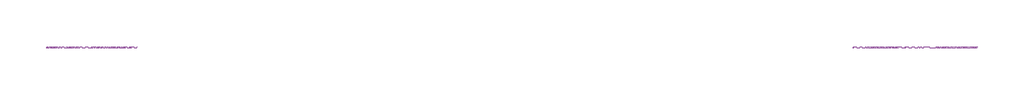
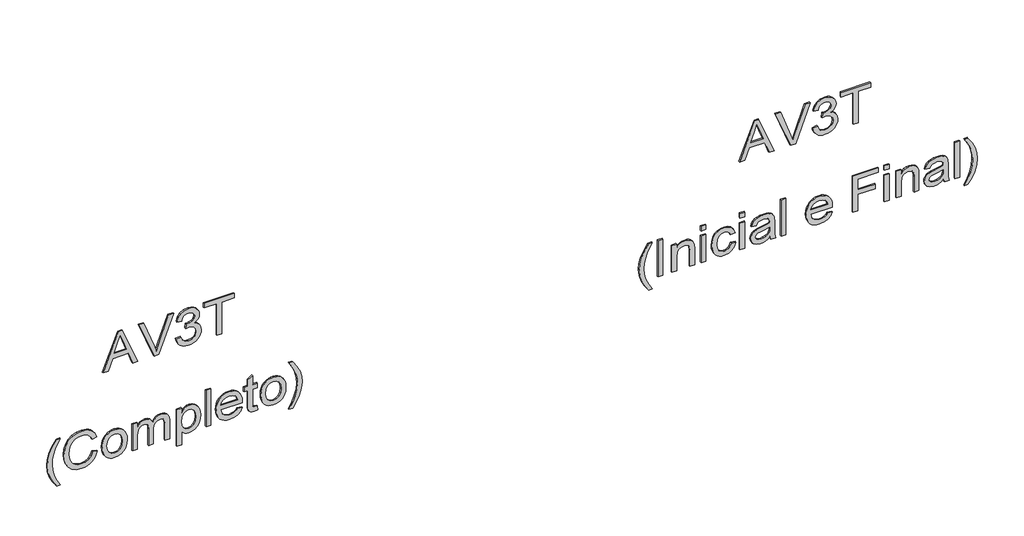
# One storey, part 9 of 14: 2 proxies.
"""IFC4 building model written with IfcOpenShell, lengths in millimetres."""

from ifc_helpers import new_model, si_unit, frame, origin, place, context, project, spatial, polyline, outline, extrude, element, save

model = new_model("IFC4")

# Units and contexts
model_context = context("Model", 3, world=origin())
ifc_project = project(units=[si_unit("LENGTHUNIT", "METRE", prefix="MILLI")], contexts=[model_context])

# Site, building, storey
site = spatial("IfcSite", under=ifc_project)
building = spatial("IfcBuilding", under=site)
storey = spatial("IfcBuildingStorey", under=building, Name="04 - Marelli - Planta Baixa - Painéis de Vidro", Elevation=36000.0)

# Proxies
placement = place(None, origin())
element("IfcBuildingElementProxy", 1, Name="300mm Arial", ObjectType="300mm Arial", at=placement, inside=storey, context=model_context, shape_type="SweptSolid", body=[
    extrude(outline(polyline([(42065.9244535, 73310.1721595), (42065.9244535, 73349.9769914), (42160.1022443, 73384.4107462), (42160.1022443, 73508.5341313), (42065.9244535, 73543.0414625), (42065.9244535, 73582.8462944), (42367.293384, 73462.5488819), (42367.293384, 73430.469572), (42065.9244535, 73310.1721595)]), holes=[polyline([(42197.7733606, 73398.2431092), (42278.3395176, 73427.7472452), (42329.6222677, 73446.5092269), (42271.8647944, 73467.6256535), (42197.7733606, 73494.7753447), (42197.7733606, 73398.2431092)])]), frame((0.0, 8778.3159498, 0.0), z_axis=(0.0, 1.0, 0.0), x_axis=(0.0, 0.0, 1.0)), (0.0, 0.0, 1.0), 10.0),
    extrude(outline(polyline([(42065.9244535, 73712.1200275), (42065.9244535, 73751.0419425), (42367.293384, 73865.8947014), (42367.293384, 73825.5748348), (42150.1694304, 73745.0822542), (42101.2411251, 73729.0425992), (42150.1694304, 73712.782215), (42367.293384, 73632.5103637), (42367.293384, 73592.190497), (42065.9244535, 73712.1200275)])), frame((0.0, 8778.3159498, 0.0), z_axis=(0.0, 1.0, 0.0), x_axis=(0.0, 0.0, 1.0)), (0.0, 0.0, 1.0), 10.0),
    extrude(outline(polyline([(42145.9755757, 73886.7903988), (42128.0827151, 73890.0415559), (42111.928097, 73896.1162073), (42097.5117213, 73905.0143531), (42084.8335881, 73916.7359932), (42074.5007025, 73930.715509), (42067.12007, 73946.387282), (42062.6916905, 73963.7513122), (42061.215564, 73982.8075995), (42062.9446094, 74003.8918364), (42068.1317455, 74023.0722839), (42076.7769724, 74040.3489421), (42088.88029, 74055.721811), (42103.4668111, 74068.3401634), (42119.5616484, 74077.3532723), (42137.1648019, 74082.7611376), (42156.2762716, 74084.5637594), (42183.2420218, 74080.9585158), (42205.2781533, 74070.1427852), (42221.5017493, 74052.6683904), (42231.029893, 74029.0871545), (42241.9008059, 74047.0397959), (42255.9722922, 74059.9892421), (42272.4901938, 74067.8251286), (42290.7003526, 74070.4370908), (42310.2440836, 74067.6871728), (42328.7025627, 74059.4374191), (42344.7238236, 74045.9913322), (42356.9558999, 74027.6524147), (42364.709013, 74005.9013918), (42367.293384, 73982.2189883), (42362.0510656, 73949.3303379), (42346.3241103, 73922.3277995), (42321.0690113, 73902.5909305), (42287.2422618, 73891.4992883), (42282.5333723, 73929.1704046), (42303.134764, 73935.8474628), (42317.8500438, 73947.6380808), (42326.6792117, 73963.7881004), (42329.6222677, 73983.5433635), (42326.7068029, 74003.2618384), (42317.9604084, 74019.0071878), (42304.7626419, 74029.3262778), (42288.4930606, 74032.7659745), (42268.9585267, 74028.0202967), (42255.2365283, 74013.7832635), (42247.1247303, 73993.6049361), (42244.4207976, 73971.0353757), (42244.862256, 73965.0021109), (42207.1911397, 73960.8082562), (42211.311418, 73987.2221835), (42207.4578541, 74010.9137839), (42195.8971624, 74030.0436477), (42178.4503588, 74042.6803942), (42156.9384591, 74046.8926431), (42134.2769282, 74042.643606), (42115.5885229, 74029.8964949), (42103.0621409, 74009.9572908), (42098.8866803, 73984.1319747), (42101.9217068, 73962.1234343), (42111.0267861, 73945.2468478), (42127.0112588, 73932.8952098), (42150.6844652, 73924.4615151), (42145.9755757, 73886.7903988)])), frame((0.0, 8778.3159498, 0.0), z_axis=(0.0, 1.0, 0.0), x_axis=(0.0, 0.0, 1.0)), (0.0, 0.0, 1.0), 10.0),
    extrude(outline(polyline([(42065.9244535, 74206.9948874), (42065.9244535, 74244.6660037), (42329.6222677, 74244.6660037), (42329.6222677, 74343.552684), (42367.293384, 74343.552684), (42367.293384, 74108.1082071), (42329.6222677, 74108.1082071), (42329.6222677, 74206.9948874), (42065.9244535, 74206.9948874)])), frame((0.0, 8778.3159498, 0.0), z_axis=(0.0, 1.0, 0.0), x_axis=(0.0, 0.0, 1.0)), (0.0, 0.0, 1.0), 10.0),
    extrude(outline(polyline([(41249.3155348, 72945.0124911), (41249.3155348, 72973.2658283), (41297.5540614, 72944.4238799), (41345.8109821, 72923.8224882), (41394.0862969, 72911.4616532), (41442.3800058, 72907.3413748), (41480.2534572, 72909.7142137), (41517.9429677, 72916.8327303), (41575.7740173, 72938.0227332), (41635.4444769, 72973.2658283), (41635.4444769, 72945.0124911), (41584.934279, 72910.321219), (41534.2033518, 72886.0042191), (41489.4137189, 72873.7537486), (41442.600735, 72869.6702585), (41389.2210575, 72875.1333061), (41337.68079, 72891.522449), (41290.2791949, 72915.8210548), (41249.3155348, 72945.0124911)])), frame((0.0, 8778.3159498, 0.0), z_axis=(0.0, 1.0, 0.0), x_axis=(0.0, 0.0, 1.0)), (0.0, 0.0, 1.0), 10.0),
    extrude(outline(polyline([(41441.2027835, 73227.5458634), (41408.9395325, 73215.3597723), (41385.7261786, 73195.576918), (41371.7098746, 73169.3745229), (41367.0377732, 73137.9298094), (41370.4682728, 73110.9548621), (41380.7597717, 73085.9480835), (41397.9858461, 73065.0891743), (41422.2200725, 73050.5578355), (41452.3128197, 73042.0321703), (41487.1144565, 73039.1902819), (41515.5333406, 73041.5907119), (41543.1060961, 73048.792002), (41567.4966724, 73061.9161921), (41586.3690188, 73082.0853225), (41598.4539423, 73108.6647967), (41602.4822501, 73141.0200181), (41598.8494154, 73169.0894144), (41587.9509113, 73191.9348863), (41569.1061561, 73209.777163), (41541.6345681, 73222.8369739), (41550.6108888, 73260.5080902), (41588.4291579, 73243.8706269), (41603.751443, 73232.0685127), (41616.6824952, 73217.9441433), (41626.9510013, 73201.7642333), (41634.2856486, 73183.7954971), (41640.1533665, 73142.4915461), (41635.6192209, 73104.6364888), (41622.0167841, 73070.0923695), (41599.6771499, 73040.9653125), (41568.9314122, 73019.3614423), (41530.9843844, 73005.9797348), (41487.0408801, 73001.5191656), (41445.3782441, 73005.4647), (41406.4747231, 73017.3013032), (41373.3837376, 73036.6886843), (41349.1587083, 73063.2865526), (41334.3146698, 73097.9870218), (41329.3666569, 73141.6822057), (41331.0014325, 73164.1046133), (41335.9057594, 73184.7243992), (41344.0796375, 73203.5415632), (41355.5230668, 73220.5561055), (41370.0796975, 73235.4323337), (41387.5931797, 73247.8345554), (41408.0635135, 73257.7627708), (41431.4906988, 73265.2169797), (41441.2027835, 73227.5458634)])), frame((0.0, 8778.3159498, 0.0), z_axis=(0.0, 1.0, 0.0), x_axis=(0.0, 0.0, 1.0)), (0.0, 0.0, 1.0), 10.0),
    extrude(outline(polyline([(41444.7344506, 73302.888096), (41418.4124939, 73304.596448), (41395.3646869, 73309.7215041), (41375.5910296, 73318.2632642), (41359.0915221, 73330.2217283), (41346.0868936, 73344.9485044), (41336.7978732, 73361.7952005), (41331.224461, 73380.7618166), (41329.3666569, 73401.8483527), (41332.7419742, 73428.4370239), (41342.8679261, 73452.8735855), (41359.1007192, 73473.447386), (41380.7965599, 73488.4477744), (41409.767267, 73497.6080361), (41447.8246594, 73500.6614566), (41472.7049786, 73498.9347105), (41494.7388108, 73493.7544722), (41513.9261561, 73485.1207416), (41530.2670145, 73473.0335188), (41543.3199275, 73458.2239692), (41552.6434368, 73441.4232584), (41558.2375424, 73422.6313862), (41560.1022443, 73401.8483527), (41558.5709355, 73383.0219916), (41553.9770091, 73365.6855526), (41546.3204651, 73349.8390357), (41535.6013034, 73335.4824408), (41518.830483, 73321.222415), (41498.095734, 73311.0366822), (41473.3970566, 73304.9252426), (41444.7344506, 73302.888096)]), holes=[polyline([(41444.808027, 73340.5592123), (41478.8830968, 73344.918614), (41503.1173232, 73357.9968189), (41517.6026768, 73377.6785056), (41522.431128, 73401.8483527), (41517.5842827, 73425.7698795), (41503.0437468, 73445.4423692), (41479.0854319, 73458.6033475), (41445.9852494, 73462.9903403), (41411.1468245, 73458.6309387), (41386.535519, 73445.5527338), (41371.9122097, 73425.9078352), (41367.0377732, 73401.8483527), (41371.8846185, 73377.6785056), (41386.4251544, 73357.9968189), (41410.7145631, 73344.918614), (41444.808027, 73340.5592123)])]), frame((0.0, 8778.3159498, 0.0), z_axis=(0.0, 1.0, 0.0), x_axis=(0.0, 0.0, 1.0)), (0.0, 0.0, 1.0), 10.0),
    extrude(outline(polyline([(41334.0755465, 73543.0414625), (41334.0755465, 73580.7125788), (41445.6909438, 73580.7125788), (41471.6082304, 73582.1473186), (41490.6461236, 73586.4515379), (41504.368122, 73593.9563306), (41514.3377241, 73604.9927905), (41520.407777, 73618.365301), (41522.431128, 73632.8782457), (41519.3961015, 73649.9571673), (41510.2910222, 73661.4626767), (41495.0974958, 73668.0017792), (41473.7971282, 73670.18148), (41334.0755465, 73670.18148), (41334.0755465, 73707.8525963), (41459.008272, 73707.8525963), (41487.7214617, 73711.5406133), (41507.3479662, 73722.6046643), (41518.6603375, 73739.2421276), (41522.431128, 73759.6503812), (41520.9596, 73771.2110729), (41516.5450161, 73781.171478), (41509.7300021, 73788.915394), (41501.0571841, 73793.8266186), (41469.6032735, 73797.3214975), (41334.0755465, 73797.3214975), (41334.0755465, 73834.9926138), (41485.7900813, 73834.9926138), (41518.7615051, 73830.6791975), (41541.8920855, 73817.7389483), (41555.5497046, 73796.7972657), (41560.1022443, 73768.4795491), (41557.366122, 73748.9542122), (41549.1577549, 73731.3602558), (41535.4771432, 73715.6976799), (41516.3242869, 73701.9664844), (41534.7643719, 73693.7627159), (41548.5875379, 73681.2179399), (41557.2235677, 73664.4241268), (41560.1022443, 73643.4732472), (41557.27875, 73623.9203191), (41548.808267, 73606.6114712), (41535.702471, 73592.0433442), (41518.9730372, 73580.7125788), (41555.3933548, 73580.7125788), (41555.3933548, 73543.0414625), (41334.0755465, 73543.0414625)])), frame((0.0, 8778.3159498, 0.0), z_axis=(0.0, 1.0, 0.0), x_axis=(0.0, 0.0, 1.0)), (0.0, 0.0, 1.0), 10.0),
    extrude(outline(polyline([(41249.3155348, 73891.4992883), (41249.3155348, 73929.1704046), (41363.5061061, 73929.1704046), (41349.9956398, 73939.8113913), (41339.0419534, 73953.0459461), (41331.785481, 73968.5061869), (41329.3666569, 73985.8242319), (41332.9810975, 74010.2423993), (41343.8244193, 74033.4649502), (41361.4459669, 74053.4041544), (41385.3950848, 74067.9722814), (41414.2094421, 74076.8842227), (41446.4267078, 74079.8548698), (41476.7217901, 74077.2245136), (41504.4784866, 74069.3334448), (41527.9861461, 74056.2736339), (41545.5341173, 74038.1370516), (41556.4602125, 74015.8617968), (41560.1022443, 73990.3859686), (41557.4994792, 73971.2561049), (41549.6911838, 73955.2164499), (41536.6773583, 73941.4576633), (41518.4580024, 73929.1704046), (41555.3933548, 73929.1704046), (41555.3933548, 73891.4992883), (41249.3155348, 73891.4992883)]), holes=[polyline([(41442.968617, 73929.1704046), (41477.1356573, 73933.5206092), (41502.0872537, 73946.571223), (41517.3451594, 73965.2688254), (41522.431128, 73986.5599959), (41517.6486621, 74007.7683929), (41503.3012642, 74025.7762165), (41479.3521464, 74038.0818693), (41445.7645202, 74042.1837535), (41410.7237602, 74037.9807017), (41386.2412134, 74025.3715464), (41371.8386333, 74006.876279), (41367.0377732, 73985.0148915), (41371.6730864, 73963.5029918), (41385.5790258, 73945.467577), (41409.1970499, 73933.2446977), (41442.968617, 73929.1704046)])]), frame((0.0, 8778.3159498, 0.0), z_axis=(0.0, 1.0, 0.0), x_axis=(0.0, 0.0, 1.0)), (0.0, 0.0, 1.0), 10.0),
    extrude(outline(polyline([(74159.905992, 8778.3159498), (74122.2348757, 8778.3159498), (74122.2348757, 8788.3159498), (74159.905992, 8788.3159498), (74159.905992, 8778.3159498)])), frame((0.0, 0.0, 41334.0755465), z_axis=(0.0, 0.0, 1.0), x_axis=(1.0, 0.0, 0.0)), (0.0, 0.0, 1.0), 301.3689304),
    extrude(outline(polyline([(41400.0, 74371.3645628), (41385.1191733, 74360.8063496), (41374.9104479, 74347.0843511), (41369.0059419, 74330.1985676), (41367.0377732, 74310.1489988), (41371.2868103, 74283.4867512), (41384.0339214, 74261.6253637), (41404.7640718, 74246.4778225), (41432.9622268, 74239.9571141), (41432.9622268, 74409.2564083), (41443.1157698, 74409.4771375), (41469.3687487, 74407.6906106), (41492.5039277, 74402.3310298), (41512.5213067, 74393.3983951), (41529.4208859, 74380.8927065), (41542.8439802, 74365.5727207), (41552.4319047, 74348.1971942), (41558.1846594, 74328.766127), (41560.1022443, 74307.2795193), (41558.1800609, 74285.0778408), (41552.4135106, 74265.0466662), (41542.8025935, 74247.1859953), (41529.3473095, 74231.4958282), (41512.4109422, 74218.7165274), (41492.3567749, 74209.5884554), (41469.1848077, 74204.1116122), (41442.8950406, 74202.2859978), (41417.467497, 74204.0932181), (41395.0427901, 74209.514879), (41375.62092, 74218.5509805), (41359.2018867, 74231.2015227), (41346.1489737, 74246.9330765), (41336.8254644, 74265.2122131), (41331.2313588, 74286.0389326), (41329.3666569, 74309.4132348), (41333.6892704, 74345.0701972), (41346.6571107, 74373.7557958), (41367.4608375, 74394.991784), (41395.2911105, 74408.2999151), (41400.0, 74371.3645628)]), holes=[polyline([(41470.6333431, 74239.9571141), (41491.8693312, 74246.1467287), (41508.3412476, 74260.7424469), (41518.9086579, 74281.7393117), (41522.431128, 74307.1323665), (41518.0165441, 74334.7603043), (41504.7727922, 74356.7228594), (41490.535759, 74366.7108556), (41470.6333431, 74371.8060212), (41470.6333431, 74239.9571141)])]), frame((0.0, 8778.3159498, 0.0), z_axis=(0.0, 1.0, 0.0), x_axis=(0.0, 0.0, 1.0)), (0.0, 0.0, 1.0), 10.0),
    extrude(outline(polyline([(41365.4926689, 74527.199376), (41367.0377732, 74510.791839), (41369.576159, 74497.9527574), (41376.4555523, 74491.5148224), (41395.8797217, 74489.5282597), (41517.7222385, 74489.5282597), (41517.7222385, 74527.199376), (41555.3933548, 74527.199376), (41555.3933548, 74489.5282597), (41631.3241986, 74489.5282597), (41609.1777025, 74451.8571434), (41555.3933548, 74451.8571434), (41555.3933548, 74423.6038061), (41517.7222385, 74423.6038061), (41517.7222385, 74451.8571434), (41394.7760757, 74451.8571434), (41367.7919313, 74452.9975775), (41352.0281878, 74456.4188801), (41342.849532, 74462.6360858), (41335.6206508, 74472.1642295), (41330.9301554, 74485.6471046), (41329.3666569, 74503.7285047), (41332.9719005, 74531.9082655), (41365.4926689, 74527.199376)])), frame((0.0, 8778.3159498, 0.0), z_axis=(0.0, 1.0, 0.0), x_axis=(0.0, 0.0, 1.0)), (0.0, 0.0, 1.0), 10.0),
    extrude(outline(polyline([(41444.7344506, 74555.4527132), (41418.4124939, 74557.1610652), (41395.3646869, 74562.2861213), (41375.5910296, 74570.8278813), (41359.0915221, 74582.7863454), (41346.0868936, 74597.5131216), (41336.7978732, 74614.3598177), (41331.224461, 74633.3264338), (41329.3666569, 74654.4129699), (41332.7419742, 74681.0016411), (41342.8679261, 74705.4382026), (41359.1007192, 74726.0120032), (41380.7965599, 74741.0123916), (41409.767267, 74750.1726532), (41447.8246594, 74753.2260738), (41472.7049786, 74751.4993277), (41494.7388108, 74746.3190893), (41513.9261561, 74737.6853588), (41530.2670145, 74725.598136), (41543.3199275, 74710.7885864), (41552.6434368, 74693.9878755), (41558.2375424, 74675.1960034), (41560.1022443, 74654.4129699), (41558.5709355, 74635.5866088), (41553.9770091, 74618.2501698), (41546.3204651, 74602.4036528), (41535.6013034, 74588.047058), (41518.830483, 74573.7870321), (41498.095734, 74563.6012994), (41473.3970566, 74557.4898597), (41444.7344506, 74555.4527132)]), holes=[polyline([(41444.808027, 74593.1238295), (41478.8830968, 74597.4832312), (41503.1173232, 74610.5614361), (41517.6026768, 74630.2431228), (41522.431128, 74654.4129699), (41517.5842827, 74678.3344966), (41503.0437468, 74698.0069863), (41479.0854319, 74711.1679647), (41445.9852494, 74715.5549575), (41411.1468245, 74711.1955559), (41386.535519, 74698.1173509), (41371.9122097, 74678.4724524), (41367.0377732, 74654.4129699), (41371.8846185, 74630.2431228), (41386.4251544, 74610.5614361), (41410.7145631, 74597.4832312), (41444.808027, 74593.1238295)])]), frame((0.0, 8778.3159498, 0.0), z_axis=(0.0, 1.0, 0.0), x_axis=(0.0, 0.0, 1.0)), (0.0, 0.0, 1.0), 10.0),
    extrude(outline(polyline([(41249.3155348, 74805.0238587), (41290.2791949, 74834.0773393), (41337.68079, 74858.4035362), (41389.2210575, 74874.8754526), (41442.600735, 74880.3660913), (41489.4137189, 74876.2826012), (41534.2033518, 74864.0321308), (41584.934279, 74839.7151309), (41635.4444769, 74805.0238587), (41635.4444769, 74776.7705215), (41575.1854061, 74812.2343458), (41546.8400984, 74824.2089048), (41517.2807801, 74833.2036196), (41479.9775458, 74840.3221362), (41442.3800058, 74842.694975), (41394.0862969, 74838.5746967), (41345.8109821, 74826.2138617), (41297.5540614, 74805.6124699), (41249.3155348, 74776.7705215), (41249.3155348, 74805.0238587)])), frame((0.0, 8778.3159498, 0.0), z_axis=(0.0, 1.0, 0.0), x_axis=(0.0, 0.0, 1.0)), (0.0, 0.0, 1.0), 10.0),
])
element("IfcBuildingElementProxy", 2, Name="300mm Arial", ObjectType="300mm Arial", at=placement, inside=storey, context=model_context, shape_type="SweptSolid", body=[
    extrude(outline(polyline([(42065.9244535, 78333.7166072), (42065.9244535, 78373.5214391), (42160.1022443, 78407.9551938), (42160.1022443, 78532.078579), (42065.9244535, 78566.5859102), (42065.9244535, 78606.390742), (42367.293384, 78486.0933296), (42367.293384, 78454.0140196), (42065.9244535, 78333.7166072)]), holes=[polyline([(42197.7733606, 78421.7875569), (42278.3395176, 78451.2916929), (42329.6222677, 78470.0536746), (42271.8647944, 78491.1701012), (42197.7733606, 78518.3197924), (42197.7733606, 78421.7875569)])]), frame((0.0, 8778.3159498, 0.0), z_axis=(0.0, 1.0, 0.0), x_axis=(0.0, 0.0, 1.0)), (0.0, 0.0, 1.0), 10.0),
    extrude(outline(polyline([(42065.9244535, 78735.6644751), (42065.9244535, 78774.5863902), (42367.293384, 78889.4391491), (42367.293384, 78849.1192825), (42150.1694304, 78768.6267019), (42101.2411251, 78752.5870469), (42150.1694304, 78736.3266627), (42367.293384, 78656.0548114), (42367.293384, 78615.7349447), (42065.9244535, 78735.6644751)])), frame((0.0, 8778.3159498, 0.0), z_axis=(0.0, 1.0, 0.0), x_axis=(0.0, 0.0, 1.0)), (0.0, 0.0, 1.0), 10.0),
    extrude(outline(polyline([(42145.9755757, 78910.3348465), (42128.0827151, 78913.5860036), (42111.928097, 78919.660655), (42097.5117213, 78928.5588008), (42084.8335881, 78940.2804409), (42074.5007025, 78954.2599567), (42067.12007, 78969.9317297), (42062.6916905, 78987.2957599), (42061.215564, 79006.3520472), (42062.9446094, 79027.436284), (42068.1317455, 79046.6167316), (42076.7769724, 79063.8933898), (42088.88029, 79079.2662586), (42103.4668111, 79091.8846111), (42119.5616484, 79100.89772), (42137.1648019, 79106.3055853), (42156.2762716, 79108.1082071), (42183.2420218, 79104.5029635), (42205.2781533, 79093.6872329), (42221.5017493, 79076.2128381), (42231.029893, 79052.6316022), (42241.9008059, 79070.5842436), (42255.9722922, 79083.5336898), (42272.4901938, 79091.3695763), (42290.7003526, 79093.9815385), (42310.2440836, 79091.2316205), (42328.7025627, 79082.9818668), (42344.7238236, 79069.5357799), (42356.9558999, 79051.1968624), (42364.709013, 79029.4458394), (42367.293384, 79005.763436), (42362.0510656, 78972.8747856), (42346.3241103, 78945.8722472), (42321.0690113, 78926.1353782), (42287.2422618, 78915.043736), (42282.5333723, 78952.7148523), (42303.134764, 78959.3919105), (42317.8500438, 78971.1825285), (42326.6792117, 78987.332548), (42329.6222677, 79007.0878112), (42326.7068029, 79026.8062861), (42317.9604084, 79042.5516355), (42304.7626419, 79052.8707255), (42288.4930606, 79056.3104221), (42268.9585267, 79051.5647444), (42255.2365283, 79037.3277112), (42247.1247303, 79017.1493838), (42244.4207976, 78994.5798234), (42244.862256, 78988.5465586), (42207.1911397, 78984.3527039), (42211.311418, 79010.7666311), (42207.4578541, 79034.4582316), (42195.8971624, 79053.5880954), (42178.4503588, 79066.2248419), (42156.9384591, 79070.4370908), (42134.2769282, 79066.1880537), (42115.5885229, 79053.4409426), (42103.0621409, 79033.5017384), (42098.8866803, 79007.6764224), (42101.9217068, 78985.667882), (42111.0267861, 78968.7912955), (42127.0112588, 78956.4396575), (42150.6844652, 78948.0059628), (42145.9755757, 78910.3348465)])), frame((0.0, 8778.3159498, 0.0), z_axis=(0.0, 1.0, 0.0), x_axis=(0.0, 0.0, 1.0)), (0.0, 0.0, 1.0), 10.0),
    extrude(outline(polyline([(42065.9244535, 79230.5393351), (42065.9244535, 79268.2104514), (42329.6222677, 79268.2104514), (42329.6222677, 79367.0971317), (42367.293384, 79367.0971317), (42367.293384, 79131.6526548), (42329.6222677, 79131.6526548), (42329.6222677, 79230.5393351), (42065.9244535, 79230.5393351)])), frame((0.0, 8778.3159498, 0.0), z_axis=(0.0, 1.0, 0.0), x_axis=(0.0, 0.0, 1.0)), (0.0, 0.0, 1.0), 10.0),
    extrude(outline(polyline([(41249.3155348, 77615.3902234), (41249.3155348, 77643.6435607), (41297.5540614, 77614.8016122), (41345.8109821, 77594.2002205), (41394.0862969, 77581.8393855), (41442.3800058, 77577.7191071), (41480.2534572, 77580.091946), (41517.9429677, 77587.2104626), (41575.7740173, 77608.4004655), (41635.4444769, 77643.6435607), (41635.4444769, 77615.3902234), (41584.934279, 77580.6989513), (41534.2033518, 77556.3819514), (41489.4137189, 77544.131481), (41442.600735, 77540.0479908), (41389.2210575, 77545.5110385), (41337.68079, 77561.9001813), (41290.2791949, 77586.1987871), (41249.3155348, 77615.3902234)])), frame((0.0, 8778.3159498, 0.0), z_axis=(0.0, 1.0, 0.0), x_axis=(0.0, 0.0, 1.0)), (0.0, 0.0, 1.0), 10.0),
    extrude(outline(polyline([(77728.4035724, 8778.3159498), (77690.732456, 8778.3159498), (77690.732456, 8788.3159498), (77728.4035724, 8788.3159498), (77728.4035724, 8778.3159498)])), frame((0.0, 0.0, 41334.0755465), z_axis=(0.0, 0.0, 1.0), x_axis=(1.0, 0.0, 0.0)), (0.0, 0.0, 1.0), 301.3689304),
    extrude(outline(polyline([(41334.0755465, 77799.0369154), (41334.0755465, 77836.7080317), (41451.5034793, 77836.7080317), (41486.2131456, 77841.003054), (41498.5877762, 77846.3718319), (41507.6422718, 77853.8881209), (41518.7339139, 77872.6960879), (41522.431128, 77894.7598106), (41520.7848561, 77908.6565529), (41515.8460403, 77920.6219148), (41508.1481095, 77929.9569205), (41498.2244927, 77935.962594), (41464.8943839, 77940.3036016), (41334.0755465, 77940.3036016), (41334.0755465, 77977.9747179), (41469.9711555, 77977.9747179), (41506.391473, 77975.9881551), (41534.0929872, 77964.6941779), (41544.6328064, 77954.5958171), (41552.9285454, 77940.4139662), (41558.3088196, 77923.4086209), (41560.1022443, 77904.8397772), (41557.8765582, 77883.8613065), (41551.1995, 77865.513192), (41540.0710697, 77849.7954337), (41524.4912672, 77836.7080317), (41555.3933548, 77836.7080317), (41555.3933548, 77799.0369154), (41334.0755465, 77799.0369154)])), frame((0.0, 8778.3159498, 0.0), z_axis=(0.0, 1.0, 0.0), x_axis=(0.0, 0.0, 1.0)), (0.0, 0.0, 1.0), 10.0),
    extrude(outline(polyline([(78067.4436191, 8778.3159498), (78029.7725028, 8778.3159498), (78029.7725028, 8788.3159498), (78067.4436191, 8788.3159498), (78067.4436191, 8778.3159498)])), frame((0.0, 0.0, 41597.7733606), z_axis=(0.0, 0.0, 1.0), x_axis=(1.0, 0.0, 0.0)), (0.0, 0.0, 1.0), 37.6711163),
    extrude(outline(polyline([(78067.4436191, 8778.3159498), (78029.7725028, 8778.3159498), (78029.7725028, 8788.3159498), (78067.4436191, 8788.3159498), (78067.4436191, 8778.3159498)])), frame((0.0, 0.0, 41334.0755465), z_axis=(0.0, 0.0, 1.0), x_axis=(1.0, 0.0, 0.0)), (0.0, 0.0, 1.0), 221.3178083),
    extrude(outline(polyline([(41414.1266686, 78265.2169797), (41393.2493654, 78258.7882419), (41378.5892679, 78247.1539738), (41369.9256469, 78231.160304), (41367.0377732, 78211.6533612), (41371.6638893, 78187.6214699), (41385.5422376, 78168.647956), (41409.6477053, 78156.3147121), (41444.9551798, 78152.2036308), (41479.7936048, 78156.4066826), (41503.816299, 78169.015838), (41517.7774208, 78188.3388398), (41522.431128, 78212.6834308), (41520.0674862, 78229.1737412), (41512.9765607, 78243.0336954), (41501.1951398, 78253.6746821), (41484.7600117, 78260.5080902), (41489.4689012, 78298.1792065), (41519.4512838, 78287.9244959), (41541.7081445, 78269.6683519), (41555.5037194, 78244.2201148), (41560.1022443, 78212.3891252), (41556.7545181, 78185.7452717), (41546.7113397, 78161.1431633), (41529.9635118, 78140.5785598), (41506.5018376, 78126.0472209), (41477.448357, 78117.4111911), (41443.9251102, 78114.5325145), (41417.8675687, 78116.2178739), (41395.024396, 78121.2739521), (41375.3955923, 78129.700749), (41358.9811575, 78141.4982647), (41346.0248135, 78156.0732895), (41336.7702821, 78172.8326137), (41331.2175632, 78191.7762372), (41329.3666569, 78212.90416), (41334.6733547, 78245.535293), (41350.593448, 78272.648196), (41375.9129264, 78292.3850651), (41409.4177791, 78302.888096), (41414.1266686, 78265.2169797)])), frame((0.0, 8778.3159498, 0.0), z_axis=(0.0, 1.0, 0.0), x_axis=(0.0, 0.0, 1.0)), (0.0, 0.0, 1.0), 10.0),
    extrude(outline(polyline([(78373.5214391, 8778.3159498), (78335.8503228, 8778.3159498), (78335.8503228, 8788.3159498), (78373.5214391, 8788.3159498), (78373.5214391, 8778.3159498)])), frame((0.0, 0.0, 41597.7733606), z_axis=(0.0, 0.0, 1.0), x_axis=(1.0, 0.0, 0.0)), (0.0, 0.0, 1.0), 37.6711163),
    extrude(outline(polyline([(78373.5214391, 8778.3159498), (78335.8503228, 8778.3159498), (78335.8503228, 8788.3159498), (78373.5214391, 8788.3159498), (78373.5214391, 8778.3159498)])), frame((0.0, 0.0, 41334.0755465), z_axis=(0.0, 0.0, 1.0), x_axis=(1.0, 0.0, 0.0)), (0.0, 0.0, 1.0), 221.3178083),
    extrude(outline(polyline([(41362.3288837, 78571.2947997), (41334.0755465, 78580.7125788), (41334.0755465, 78618.3836951), (41365.7501862, 78610.8789024), (41431.1963932, 78608.965916), (41478.0645594, 78608.965916), (41511.0267861, 78607.126506), (41525.1442577, 78602.5831634), (41536.5945848, 78595.5750114), (41545.856014, 78585.0076011), (41553.406792, 78569.7864835), (41558.4283812, 78549.598959), (41560.1022443, 78524.1323279), (41558.207652, 78497.5804449), (41552.5238752, 78474.4314704), (41543.3452194, 78455.5039417), (41530.9659903, 78441.6163964), (41514.7791825, 78431.8583265), (41494.1777908, 78425.319224), (41489.4689012, 78462.9903403), (41505.1314772, 78470.4767389), (41515.1838527, 78481.1637109), (41520.6193092, 78496.8354839), (41522.431128, 78519.2762856), (41519.7088012, 78543.5197091), (41511.5418209, 78560.9205274), (41500.5421493, 78568.7012316), (41483.7299421, 78571.2947997), (41475.3422326, 78571.0740705), (41468.3524747, 78544.2554731), (41462.3927864, 78505.7382282), (41456.7274037, 78473.1438834), (41444.3665686, 78446.7667443), (41434.8752131, 78436.1625458), (41422.7351073, 78427.8208216), (41408.5532564, 78422.4129563), (41392.9366657, 78420.6103345), (41367.6079903, 78425.3836034), (41347.2457219, 78439.70341), (41333.8364232, 78462.925961), (41329.3666569, 78494.4074627), (41331.224461, 78515.2755689), (41336.7978732, 78534.7641176), (41346.896234, 78553.2961731), (41362.3288837, 78571.2947997)]), holes=[polyline([(41437.6711163, 78571.2947997), (41427.0025384, 78571.0740705), (41410.0799667, 78569.5841484), (41397.8662844, 78565.1143822), (41386.0112871, 78555.0344155), (41376.0508821, 78540.5398649), (41369.2910505, 78522.6607999), (41367.0377732, 78502.4272902), (41369.0795183, 78483.3434117), (41375.2047535, 78469.5018516), (41384.3834093, 78461.086551), (41395.5854161, 78458.2814508), (41410.0799667, 78463.4317987), (41420.0127805, 78478.1102903), (41426.1196217, 78510.5206941), (41437.6711163, 78571.2947997)])]), frame((0.0, 8778.3159498, 0.0), z_axis=(0.0, 1.0, 0.0), x_axis=(0.0, 0.0, 1.0)), (0.0, 0.0, 1.0), 10.0),
    extrude(outline(polyline([(78698.4348172, 8778.3159498), (78660.7637009, 8778.3159498), (78660.7637009, 8788.3159498), (78698.4348172, 8788.3159498), (78698.4348172, 8778.3159498)])), frame((0.0, 0.0, 41334.0755465), z_axis=(0.0, 0.0, 1.0), x_axis=(1.0, 0.0, 0.0)), (0.0, 0.0, 1.0), 301.3689304),
    extrude(outline(polyline([(41400.0, 79027.6156265), (41385.1191733, 79017.0574133), (41374.9104479, 79003.3354148), (41369.0059419, 78986.4496313), (41367.0377732, 78966.4000625), (41371.2868103, 78939.7378149), (41384.0339214, 78917.8764274), (41404.7640718, 78902.7288862), (41432.9622268, 78896.2081778), (41432.9622268, 79065.507472), (41443.1157698, 79065.7282012), (41469.3687487, 79063.9416743), (41492.5039277, 79058.5820935), (41512.5213067, 79049.6494588), (41529.4208859, 79037.1437702), (41542.8439802, 79021.8237844), (41552.4319047, 79004.4482579), (41558.1846594, 78985.0171907), (41560.1022443, 78963.530583), (41558.1800609, 78941.3289046), (41552.4135106, 78921.2977299), (41542.8025935, 78903.437059), (41529.3473095, 78887.746892), (41512.4109422, 78874.9675911), (41492.3567749, 78865.8395191), (41469.1848077, 78860.3626759), (41442.8950406, 78858.5370615), (41417.467497, 78860.3442818), (41395.0427901, 78865.7659427), (41375.62092, 78874.8020442), (41359.2018867, 78887.4525864), (41346.1489737, 78903.1841402), (41336.8254644, 78921.4632768), (41331.2313588, 78942.2899963), (41329.3666569, 78965.6642985), (41333.6892704, 79001.3212609), (41346.6571107, 79030.0068595), (41367.4608375, 79051.2428477), (41395.2911105, 79064.5509788), (41400.0, 79027.6156265)]), holes=[polyline([(41470.6333431, 78896.2081778), (41491.8693312, 78902.3977924), (41508.3412476, 78916.9935106), (41518.9086579, 78937.9903754), (41522.431128, 78963.3834302), (41518.0165441, 78991.011368), (41504.7727922, 79012.9739231), (41490.535759, 79022.9619193), (41470.6333431, 79028.0570849), (41470.6333431, 78896.2081778)])]), frame((0.0, 8778.3159498, 0.0), z_axis=(0.0, 1.0, 0.0), x_axis=(0.0, 0.0, 1.0)), (0.0, 0.0, 1.0), 10.0),
    extrude(outline(polyline([(41334.0755465, 79225.8304455), (41334.0755465, 79263.5015618), (41470.6333431, 79263.5015618), (41470.6333431, 79404.768248), (41508.3044594, 79404.768248), (41508.3044594, 79263.5015618), (41597.7733606, 79263.5015618), (41597.7733606, 79428.3126957), (41635.4444769, 79428.3126957), (41635.4444769, 79225.8304455), (41334.0755465, 79225.8304455)])), frame((0.0, 8778.3159498, 0.0), z_axis=(0.0, 1.0, 0.0), x_axis=(0.0, 0.0, 1.0)), (0.0, 0.0, 1.0), 10.0),
    extrude(outline(polyline([(79513.0727074, 8778.3159498), (79475.4015911, 8778.3159498), (79475.4015911, 8788.3159498), (79513.0727074, 8788.3159498), (79513.0727074, 8778.3159498)])), frame((0.0, 0.0, 41597.7733606), z_axis=(0.0, 0.0, 1.0), x_axis=(1.0, 0.0, 0.0)), (0.0, 0.0, 1.0), 37.6711163),
    extrude(outline(polyline([(79513.0727074, 8778.3159498), (79475.4015911, 8778.3159498), (79475.4015911, 8788.3159498), (79513.0727074, 8788.3159498), (79513.0727074, 8778.3159498)])), frame((0.0, 0.0, 41334.0755465), z_axis=(0.0, 0.0, 1.0), x_axis=(1.0, 0.0, 0.0)), (0.0, 0.0, 1.0), 221.3178083),
    extrude(outline(polyline([(41334.0755465, 79569.5793818), (41334.0755465, 79607.2504981), (41451.5034793, 79607.2504981), (41486.2131456, 79611.5455204), (41498.5877762, 79616.9142983), (41507.6422718, 79624.4305873), (41518.7339139, 79643.2385543), (41522.431128, 79665.302277), (41520.7848561, 79679.1990193), (41515.8460403, 79691.1643812), (41508.1481095, 79700.4993868), (41498.2244927, 79706.5050604), (41464.8943839, 79710.846068), (41334.0755465, 79710.846068), (41334.0755465, 79748.5171843), (41469.9711555, 79748.5171843), (41506.391473, 79746.5306215), (41534.0929872, 79735.2366442), (41544.6328064, 79725.1382835), (41552.9285454, 79710.9564326), (41558.3088196, 79693.9510873), (41560.1022443, 79675.3822436), (41557.8765582, 79654.4037729), (41551.1995, 79636.0556583), (41540.0710697, 79620.3379001), (41524.4912672, 79607.2504981), (41555.3933548, 79607.2504981), (41555.3933548, 79569.5793818), (41334.0755465, 79569.5793818)])), frame((0.0, 8778.3159498, 0.0), z_axis=(0.0, 1.0, 0.0), x_axis=(0.0, 0.0, 1.0)), (0.0, 0.0, 1.0), 10.0),
    extrude(outline(polyline([(41362.3288837, 79941.5816553), (41334.0755465, 79950.9994344), (41334.0755465, 79988.6705507), (41365.7501862, 79981.165758), (41431.1963932, 79979.2527716), (41478.0645594, 79979.2527716), (41511.0267861, 79977.4133617), (41525.1442577, 79972.870019), (41536.5945848, 79965.861867), (41545.856014, 79955.2944567), (41553.406792, 79940.0733392), (41558.4283812, 79919.8858147), (41560.1022443, 79894.4191836), (41558.207652, 79867.8673006), (41552.5238752, 79844.718326), (41543.3452194, 79825.7907974), (41530.9659903, 79811.903252), (41514.7791825, 79802.1451821), (41494.1777908, 79795.6060797), (41489.4689012, 79833.277196), (41505.1314772, 79840.7635946), (41515.1838527, 79851.4505665), (41520.6193092, 79867.1223395), (41522.431128, 79889.5631412), (41519.7088012, 79913.8065647), (41511.5418209, 79931.2073831), (41500.5421493, 79938.9880873), (41483.7299421, 79941.5816553), (41475.3422326, 79941.3609261), (41468.3524747, 79914.5423287), (41462.3927864, 79876.0250838), (41456.7274037, 79843.430739), (41444.3665686, 79817.0536), (41434.8752131, 79806.4494015), (41422.7351073, 79798.1076772), (41408.5532564, 79792.6998119), (41392.9366657, 79790.8971901), (41367.6079903, 79795.670459), (41347.2457219, 79809.9902657), (41333.8364232, 79833.2128166), (41329.3666569, 79864.6943183), (41331.224461, 79885.5624245), (41336.7978732, 79905.0509732), (41346.896234, 79923.5830287), (41362.3288837, 79941.5816553)]), holes=[polyline([(41437.6711163, 79941.5816553), (41427.0025384, 79941.3609261), (41410.0799667, 79939.8710041), (41397.8662844, 79935.4012378), (41386.0112871, 79925.3212712), (41376.0508821, 79910.8267205), (41369.2910505, 79892.9476556), (41367.0377732, 79872.7141458), (41369.0795183, 79853.6302673), (41375.2047535, 79839.7887073), (41384.3834093, 79831.3734066), (41395.5854161, 79828.5683064), (41410.0799667, 79833.7186544), (41420.0127805, 79848.397146), (41426.1196217, 79880.8075497), (41437.6711163, 79941.5816553)])]), frame((0.0, 8778.3159498, 0.0), z_axis=(0.0, 1.0, 0.0), x_axis=(0.0, 0.0, 1.0)), (0.0, 0.0, 1.0), 10.0),
    extrude(outline(polyline([(80068.7216729, 8778.3159498), (80031.0505566, 8778.3159498), (80031.0505566, 8788.3159498), (80068.7216729, 8788.3159498), (80068.7216729, 8778.3159498)])), frame((0.0, 0.0, 41334.0755465), z_axis=(0.0, 0.0, 1.0), x_axis=(1.0, 0.0, 0.0)), (0.0, 0.0, 1.0), 301.3689304),
    extrude(outline(polyline([(41249.3155348, 80134.6461264), (41290.2791949, 80163.699607), (41337.68079, 80188.0258039), (41389.2210575, 80204.4977202), (41442.600735, 80209.988359), (41489.4137189, 80205.9048689), (41534.2033518, 80193.6543984), (41584.934279, 80169.3373986), (41635.4444769, 80134.6461264), (41635.4444769, 80106.3927892), (41575.1854061, 80141.8566135), (41546.8400984, 80153.8311725), (41517.2807801, 80162.8258872), (41479.9775458, 80169.9444038), (41442.3800058, 80172.3172427), (41394.0862969, 80168.1969644), (41345.8109821, 80155.8361293), (41297.5540614, 80135.2347376), (41249.3155348, 80106.3927892), (41249.3155348, 80134.6461264)])), frame((0.0, 8778.3159498, 0.0), z_axis=(0.0, 1.0, 0.0), x_axis=(0.0, 0.0, 1.0)), (0.0, 0.0, 1.0), 10.0),
])

save(model, "model.ifc")
